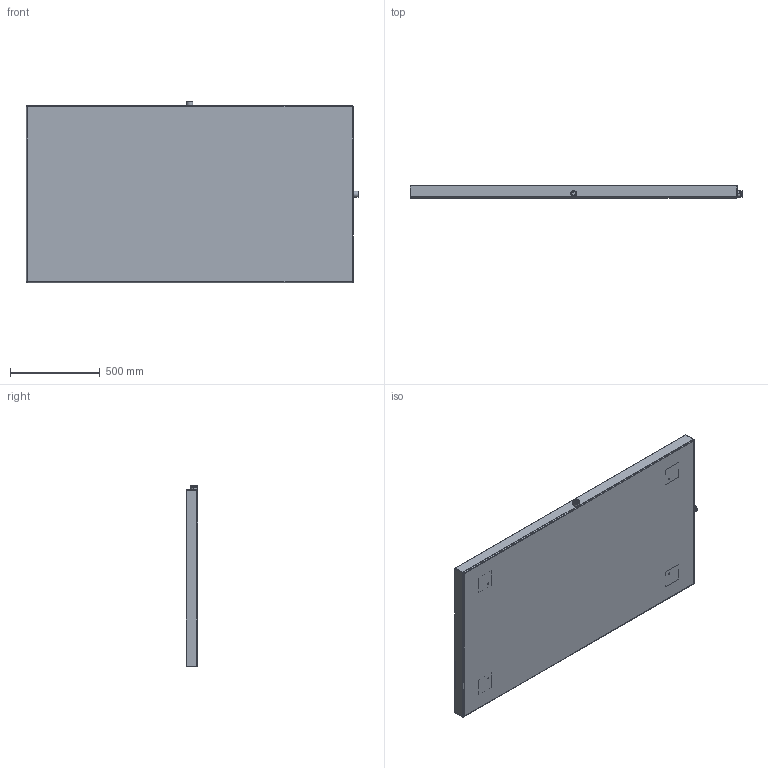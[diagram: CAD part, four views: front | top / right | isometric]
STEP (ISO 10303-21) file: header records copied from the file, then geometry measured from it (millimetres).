
FILE_DESCRIPTION (( 'STEP AP203' ), '1' );
FILE_NAME ('RJDPP100.STEP', '2015-01-07T19:47:11', ( '' ), ( '' ), 'SwSTEP 2.0', 'SolidWorks 2014', '' );
FILE_SCHEMA (( 'CONFIG_CONTROL_DESIGN' ));
Length unit declared in the file: inch
Products named in the file (1): RJDPP100
Bounding box: 1854.2 x 66.67 x 1016 mm (x, y, z)
Volume: 7098598.5 mm3; surface area: 4448961.5 mm2
Topology: 9 solids, 9 shells, 250 faces, 532 edges, 304 vertices
Faces by surface type: cone 128, plane 70, cylinder 44, bspline 8
Entity records: 7243 total; most frequent: CARTESIAN_POINT 1703, DIRECTION 1210, ORIENTED_EDGE 1064, EDGE_CURVE 532, AXIS2_PLACEMENT_3D 451, LINE 308, VECTOR 308, VERTEX_POINT 304
